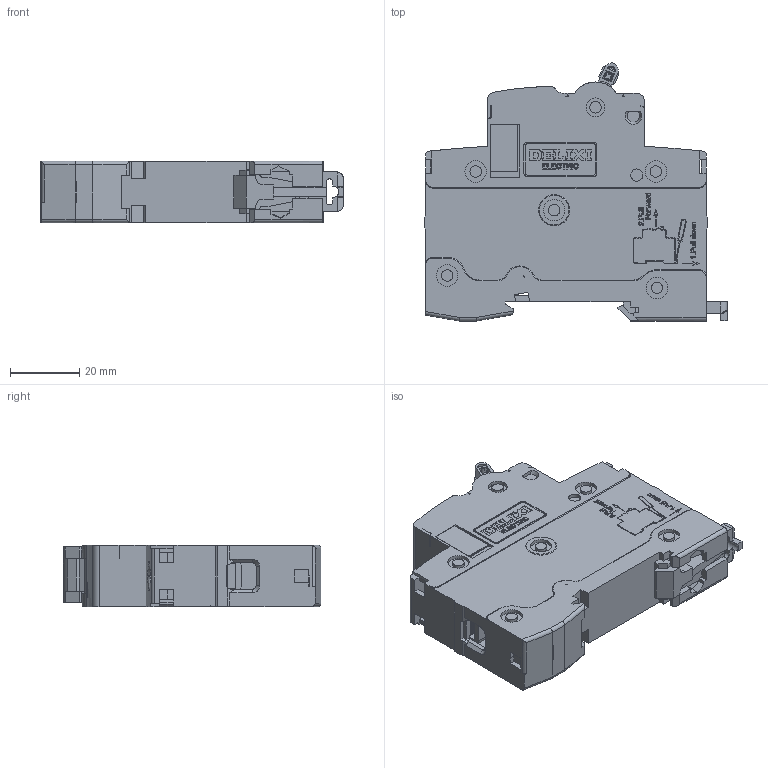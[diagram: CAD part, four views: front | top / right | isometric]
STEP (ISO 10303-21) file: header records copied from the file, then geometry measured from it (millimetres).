
FILE_DESCRIPTION((''),'2;1');
FILE_NAME('1255001800_ASM0001_SW0001','2019-10-22T',('gang.wang'),(''),'PRO/ENGINEER BY PARAMETRIC TECHNOLOGY CORPORATION, 2015440','PRO/ENGINEER BY PARAMETRIC TECHNOLOGY CORPORATION, 2015440','');
FILE_SCHEMA(('CONFIG_CONTROL_DESIGN'));
Products named in the file (1): 1255001800_ASM0001_SW0001
Bounding box: 87.18 x 74.27 x 17.7 mm (x, y, z)
Volume: 72503.9 mm3; surface area: 25219.5 mm2
Topology: 1 solids, 2 shells, 3439 faces, 9417 edges, 6089 vertices
Faces by surface type: plane 2001, cylinder 632, extrusion 535, cone 100, torus 89, sphere 48, bspline 34
Entity records: 114804 total; most frequent: CARTESIAN_POINT 29526, ORIENTED_EDGE 18738, DIRECTION 15632, EDGE_CURVE 9369, VECTOR 7112, LINE 6577, VERTEX_POINT 6089, AXIS2_PLACEMENT_3D 4260
